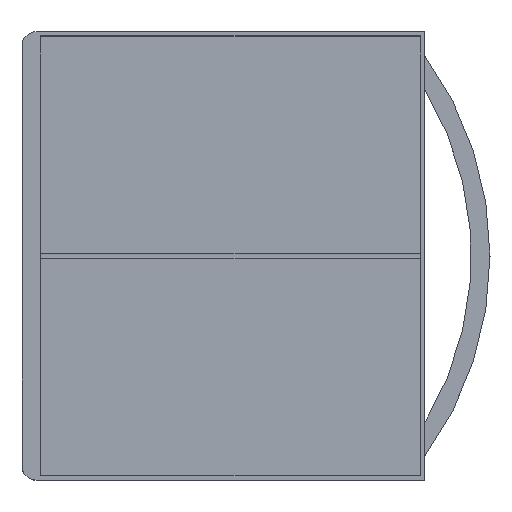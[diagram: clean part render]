
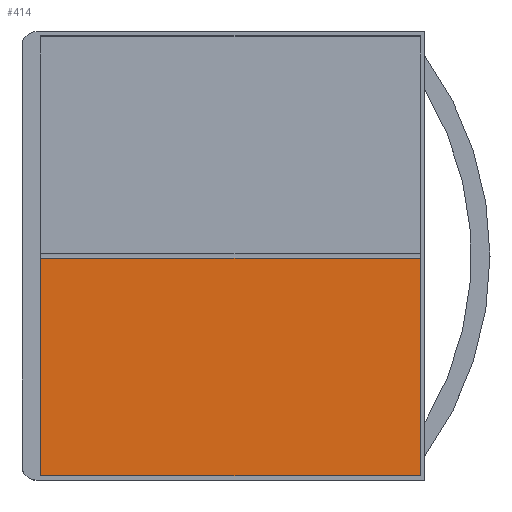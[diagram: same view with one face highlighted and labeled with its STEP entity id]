
A CAD part, top view. The second image highlights one B-rep face of the part: STEP entity #414.
In plain terms, the highlighted planar face has unit normal (0, 0, 1).
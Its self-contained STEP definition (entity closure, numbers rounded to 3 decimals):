
#28=PLANE('',#462);
#50=FACE_OUTER_BOUND('',#73,.T.);
#73=EDGE_LOOP('',(#357,#358,#359,#360));
#103=LINE('',#643,#148);
#107=LINE('',#651,#152);
#119=LINE('',#687,#164);
#121=LINE('',#690,#166);
#148=VECTOR('',#518,10.);
#152=VECTOR('',#526,10.);
#164=VECTOR('',#564,10.);
#166=VECTOR('',#568,10.);
#205=VERTEX_POINT('',#640);
#206=VERTEX_POINT('',#642);
#208=VERTEX_POINT('',#650);
#219=VERTEX_POINT('',#686);
#249=EDGE_CURVE('',#206,#205,#103,.F.);
#253=EDGE_CURVE('',#208,#206,#107,.F.);
#271=EDGE_CURVE('',#205,#219,#119,.F.);
#273=EDGE_CURVE('',#219,#208,#121,.F.);
#357=ORIENTED_EDGE('',*,*,#271,.T.);
#358=ORIENTED_EDGE('',*,*,#273,.T.);
#359=ORIENTED_EDGE('',*,*,#253,.T.);
#360=ORIENTED_EDGE('',*,*,#249,.T.);
#414=ADVANCED_FACE('',(#50),#28,.F.);
#462=AXIS2_PLACEMENT_3D('',#689,#566,#567);
#518=DIRECTION('',(0.,1.,0.));
#526=DIRECTION('',(1.,0.,0.));
#564=DIRECTION('',(-1.,0.,0.));
#566=DIRECTION('center_axis',(0.,0.,-1.));
#567=DIRECTION('ref_axis',(0.,1.,0.));
#568=DIRECTION('',(0.,-1.,0.));
#640=CARTESIAN_POINT('',(8.,-47.,-8.6));
#642=CARTESIAN_POINT('',(8.,-0.45,-8.6));
#643=CARTESIAN_POINT('',(8.,-47.45,-8.6));
#650=CARTESIAN_POINT('',(89.1,-0.45,-8.6));
#651=CARTESIAN_POINT('',(6.,-0.45,-8.6));
#686=CARTESIAN_POINT('',(89.1,-47.,-8.6));
#687=CARTESIAN_POINT('',(46.55,-47.,-8.6));
#689=CARTESIAN_POINT('Origin',(4.,-47.9,-8.6));
#690=CARTESIAN_POINT('',(89.1,-24.175,-8.6));
